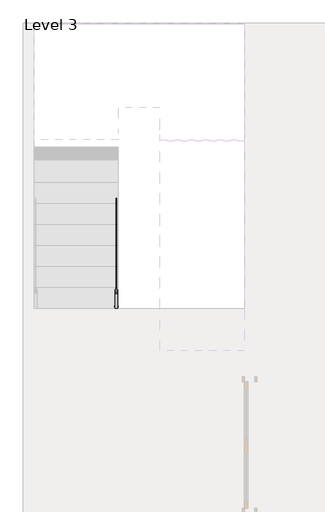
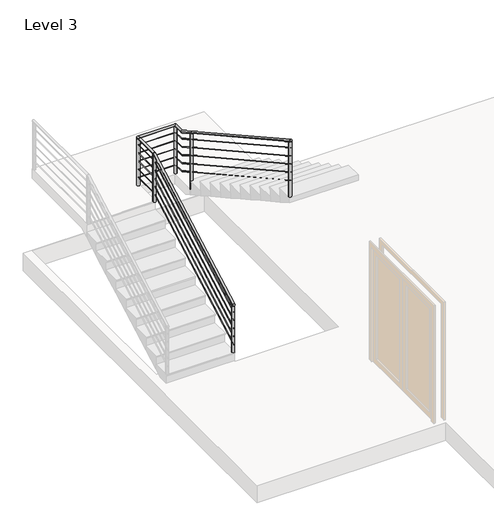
# One storey, part 2 of 3: 1 railing.
"""IFC4 building model written with IfcOpenShell, lengths in millimetres."""

from ifc_helpers import new_model, si_unit, point, frame, frame_2d, origin, place, context, project, spatial, circle_curve, ellipse_curve, trimmed, segment, composite_curve, outline, extrude, element, save
from ifc_brep_helpers import plane_surface, cylinder_surface, advanced_brep

model = new_model("IFC4")

# Units and contexts
model_context = context("Model", 3, world=origin())
ifc_project = project(units=[si_unit("LENGTHUNIT", "METRE", prefix="MILLI")], contexts=[model_context])

# Site, building, storey
site = spatial("IfcSite", under=ifc_project)
building = spatial("IfcBuilding", under=site)
storey = spatial("IfcBuildingStorey", under=building, Name="Level 3", Elevation=6096.0)

# Railing
placement = place(None, origin())
element("IfcRailing", 1, ObjectType="Handrail -Wire", at=placement, inside=storey, context=model_context, shape_type="SolidModel", body=[
    advanced_brep(
    [(-20164.067382, 11483.2233604, 7157.9409162), (-20202.167382, 11483.2233604, 7157.9409162), (-20164.067382, 13926.5597113, 8515.35), (-20202.167382, 13926.5597113, 8515.35), (-20164.067382, 14397.8733604, 8515.35), (-20202.167382, 14435.9733604, 8515.35), (-19541.767382, 14397.8733604, 8515.35), (-19503.667382, 14435.9733604, 8515.35), (-19541.767382, 14221.4870096, 8515.35), (-19503.667382, 14221.4870096, 8515.35), (-19541.767382, 13912.3718626, 8687.0806372), (-19503.667382, 13912.3718626, 8687.0806372), (-19541.767382, 10873.6233604, 10375.2742495), (-19503.667382, 10873.6233604, 10375.2742495)],
    [
        (0, 1, ellipse_curve(frame((-20183.117382, 11483.2233604, 7157.9409162), z_axis=(0.0, -1.0, 0.0), x_axis=(0.0, 0.0, -1.0)), 21.7924171, 19.05)),
        (1, 0, ellipse_curve(frame((-20183.117382, 11483.2233604, 7157.9409162), z_axis=(0.0, -1.0, 0.0), x_axis=(0.0, 0.0, -1.0)), 21.7924171, 19.05)),
        (0, 2),
        (2, 3, ellipse_curve(frame((-20183.117382, 13926.5597113, 8515.35), z_axis=(0.0, -0.9680282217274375, -0.2508413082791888), x_axis=(0.0, 0.25084130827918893, -0.9680282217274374)), 19.6791783, 19.05)),
        (3, 1),
        (3, 2, ellipse_curve(frame((-20183.117382, 13926.5597113, 8515.35), z_axis=(0.0, -0.9680282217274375, -0.2508413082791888), x_axis=(0.0, 0.25084130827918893, -0.9680282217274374)), 19.6791783, 19.05)),
        (2, 4),
        (4, 5, ellipse_curve(frame((-20183.117382, 14416.9233604, 8515.35), z_axis=(-0.7071067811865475, -0.7071067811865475, 0.0), x_axis=(0.7071067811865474, -0.7071067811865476, 0.0)), 26.9407684, 19.05)),
        (5, 3),
        (5, 4, ellipse_curve(frame((-20183.117382, 14416.9233604, 8515.35), z_axis=(-0.7071067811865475, -0.7071067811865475, 0.0), x_axis=(0.7071067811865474, -0.7071067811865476, 0.0)), 26.9407684, 19.05)),
        (4, 6),
        (6, 7, ellipse_curve(frame((-19522.717382, 14416.9233604, 8515.35), z_axis=(-0.7071067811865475, 0.7071067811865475, 0.0), x_axis=(-0.7071067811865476, -0.7071067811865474, 0.0)), 26.9407684, 19.05)),
        (7, 5),
        (7, 6, ellipse_curve(frame((-19522.717382, 14416.9233604, 8515.35), z_axis=(-0.7071067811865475, 0.7071067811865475, 0.0), x_axis=(-0.7071067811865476, -0.7071067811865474, 0.0)), 26.9407684, 19.05)),
        (6, 8),
        (8, 9, ellipse_curve(frame((-19522.717382, 14221.4870096, 8515.35), z_axis=(0.0, 0.9680282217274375, -0.25084130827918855), x_axis=(0.0, 0.25084130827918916, 0.9680282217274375)), 19.6791783, 19.05)),
        (9, 7),
        (9, 8, ellipse_curve(frame((-19522.717382, 14221.4870096, 8515.35), z_axis=(0.0, 0.9680282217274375, -0.25084130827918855), x_axis=(0.0, 0.25084130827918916, 0.9680282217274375)), 19.6791783, 19.05)),
        (8, 10),
        (10, 11, circle_curve(frame((-19522.717382, 13912.3718626, 8687.0806372), z_axis=(0.0, 0.8741572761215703, -0.4856429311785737), x_axis=(1.0, 0.0, 0.0)), 19.05)),
        (11, 9),
        (11, 10, circle_curve(frame((-19522.717382, 13912.3718626, 8687.0806372), z_axis=(0.0, 0.8741572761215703, -0.4856429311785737), x_axis=(1.0, 0.0, 0.0)), 19.05)),
        (12, 13, ellipse_curve(frame((-19522.717382, 10873.6233604, 10375.2742495), z_axis=(0.0, -1.0, 0.0), x_axis=(0.0, 0.0, -1.0)), 21.7924171, 19.05)),
        (13, 12, ellipse_curve(frame((-19522.717382, 10873.6233604, 10375.2742495), z_axis=(0.0, -1.0, 0.0), x_axis=(0.0, 0.0, -1.0)), 21.7924171, 19.05)),
        (10, 12),
        (13, 11),
    ],
    [
        plane_surface(frame((-20183.117382, 11483.2233604, 7179.7333333), z_axis=(0.0, -1.0, 0.0), x_axis=(0.0, 0.0, 1.0))),
        cylinder_surface(frame((-20183.117382, 11492.4748583, 7163.0806372), z_axis=(0.0, -0.87415727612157, -0.4856429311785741), x_axis=(-1.0, 0.0, 0.0)), 19.05),
        cylinder_surface(frame((-20183.117382, 13921.6233604, 8515.35), z_axis=(0.0, -1.0, 0.0), x_axis=(-1.0, 0.0, 0.0)), 19.05),
        cylinder_surface(frame((-20183.117382, 14416.9233604, 8515.35), z_axis=(-1.0, 0.0, 0.0), x_axis=(0.0, 1.0, 0.0)), 19.05),
        cylinder_surface(frame((-19522.717382, 14416.9233604, 8515.35), z_axis=(0.0, 1.0, 0.0), x_axis=(1.0, 0.0, 0.0)), 19.05),
        cylinder_surface(frame((-19522.717382, 14217.1718626, 8517.7473039), z_axis=(0.0, 0.8741572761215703, -0.4856429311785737), x_axis=(1.0, 0.0, 0.0)), 19.05),
        plane_surface(frame((-19522.717382, 10873.6233604, 10397.0666667), z_axis=(0.0, -1.0, 0.0), x_axis=(0.0, 0.0, -1.0))),
        cylinder_surface(frame((-19522.717382, 13912.3718626, 8687.0806372), z_axis=(0.0, 0.8741572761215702, -0.4856429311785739), x_axis=(1.0, 0.0, 0.0)), 19.05),
    ],
    [
        (0, [[1, 2]]),
        (1, [[-1, 3, 4, 5]]),
        (1, [[-2, -5, 6, -3]]),
        (2, [[-4, 7, 8, 9]]),
        (2, [[-6, -9, 10, -7]]),
        (3, [[-8, 11, 12, 13]]),
        (3, [[-10, -13, 14, -11]]),
        (4, [[-12, 15, 16, 17]]),
        (4, [[-14, -17, 18, -15]]),
        (5, [[-16, 19, 20, 21]]),
        (5, [[-18, -21, 22, -19]]),
        (6, [[23, 24]]),
        (7, [[-20, 25, -24, 26]]),
        (7, [[-22, -26, -23, -25]]),
    ],
),
    advanced_brep(
    [(-20186.292382, 11483.2233604, 7023.7012638), (-20179.942382, 11483.2233604, 7023.7012638), (-20186.292382, 13921.6233604, 8378.3679305), (-20179.942382, 13921.6233604, 8378.3679305)],
    [
        (0, 1, ellipse_curve(frame((-20183.117382, 11483.2233604, 7023.7012638), z_axis=(0.0, -1.0, 0.0), x_axis=(0.0, 0.0, -1.0)), 3.6320695, 3.175)),
        (1, 0, ellipse_curve(frame((-20183.117382, 11483.2233604, 7023.7012638), z_axis=(0.0, -1.0, 0.0), x_axis=(0.0, 0.0, -1.0)), 3.6320695, 3.175)),
        (2, 3, ellipse_curve(frame((-20183.117382, 13921.6233604, 8378.3679305), z_axis=(0.0, 1.0, 0.0), x_axis=(0.0, 0.0, -1.0)), 3.6320695, 3.175)),
        (3, 2, ellipse_curve(frame((-20183.117382, 13921.6233604, 8378.3679305), z_axis=(0.0, 1.0, 0.0), x_axis=(0.0, 0.0, -1.0)), 3.6320695, 3.175)),
        (0, 2),
        (3, 1),
    ],
    [
        plane_surface(frame((-20183.117382, 11483.2233604, 7027.3333333), z_axis=(0.0, -1.0, 0.0), x_axis=(0.0, 0.0, 1.0))),
        plane_surface(frame((-20183.117382, 13921.6233604, 8382.0), z_axis=(0.0, 1.0, 0.0), x_axis=(0.0, 0.0, 1.0))),
        cylinder_surface(frame((-20183.117382, 11484.7652768, 7024.557884), z_axis=(0.0, -0.87415727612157, -0.4856429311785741), x_axis=(1.0, 0.0, 0.0)), 3.175),
    ],
    [
        (0, [[1, 2]]),
        (1, [[3, 4]]),
        (2, [[-1, 5, -4, 6]]),
        (2, [[-2, -6, -3, -5]]),
    ],
),
    advanced_brep(
    [(-20186.292382, 13921.6233604, 8378.825), (-20179.942382, 13921.6233604, 8378.825), (-20186.292382, 14413.7483604, 8378.825), (-20179.942382, 14413.7483604, 8378.825)],
    [
        (0, 1, circle_curve(frame((-20183.117382, 13921.6233604, 8378.825), z_axis=(0.0, -1.0, 0.0), x_axis=(1.0, 0.0, 0.0)), 3.175)),
        (1, 0, circle_curve(frame((-20183.117382, 13921.6233604, 8378.825), z_axis=(0.0, -1.0, 0.0), x_axis=(1.0, 0.0, 0.0)), 3.175)),
        (2, 3, circle_curve(frame((-20183.117382, 14413.7483604, 8378.825), z_axis=(0.0, 1.0, 0.0), x_axis=(1.0, 0.0, 0.0)), 3.175)),
        (3, 2, circle_curve(frame((-20183.117382, 14413.7483604, 8378.825), z_axis=(0.0, 1.0, 0.0), x_axis=(1.0, 0.0, 0.0)), 3.175)),
        (0, 2),
        (3, 1),
    ],
    [
        plane_surface(frame((-20183.117382, 13921.6233604, 8382.0), z_axis=(0.0, -1.0, 0.0), x_axis=(0.0, 0.0, 1.0))),
        plane_surface(frame((-20183.117382, 14413.7483604, 8382.0), z_axis=(0.0, 1.0, 0.0), x_axis=(0.0, 0.0, 1.0))),
        cylinder_surface(frame((-20183.117382, 13921.6233604, 8378.825), z_axis=(0.0, -1.0, 0.0), x_axis=(1.0, 0.0, 0.0)), 3.175),
    ],
    [
        (0, [[1, 2]]),
        (1, [[3, 4]]),
        (2, [[-1, 5, -4, 6]]),
        (2, [[-2, -6, -3, -5]]),
    ],
),
    advanced_brep(
    [(-20186.292382, 14420.0983604, 8378.825), (-20186.292382, 14413.7483604, 8378.825), (-19525.892382, 14420.0983604, 8378.825), (-19525.892382, 14413.7483604, 8378.825)],
    [
        (0, 1, circle_curve(frame((-20186.292382, 14416.9233604, 8378.825), z_axis=(-1.0, 0.0, 0.0), x_axis=(0.0, -1.0, 0.0)), 3.175)),
        (1, 0, circle_curve(frame((-20186.292382, 14416.9233604, 8378.825), z_axis=(-1.0, 0.0, 0.0), x_axis=(0.0, -1.0, 0.0)), 3.175)),
        (2, 3, circle_curve(frame((-19525.892382, 14416.9233604, 8378.825), z_axis=(1.0, 0.0, 0.0), x_axis=(0.0, -1.0, 0.0)), 3.175)),
        (3, 2, circle_curve(frame((-19525.892382, 14416.9233604, 8378.825), z_axis=(1.0, 0.0, 0.0), x_axis=(0.0, -1.0, 0.0)), 3.175)),
        (0, 2),
        (3, 1),
    ],
    [
        plane_surface(frame((-20186.292382, 14416.9233604, 8382.0), z_axis=(-1.0, 0.0, 0.0), x_axis=(0.0, 1.0, 0.0))),
        plane_surface(frame((-19525.892382, 14416.9233604, 8382.0), z_axis=(1.0, 0.0, 0.0), x_axis=(0.0, 1.0, 0.0))),
        cylinder_surface(frame((-20186.292382, 14416.9233604, 8378.825), z_axis=(-1.0, 0.0, 0.0), x_axis=(0.0, -1.0, 0.0)), 3.175),
    ],
    [
        (0, [[1, 2]]),
        (1, [[3, 4]]),
        (2, [[-1, 5, -4, 6]]),
        (2, [[-2, -6, -3, -5]]),
    ],
),
    advanced_brep(
    [(-19519.542382, 14420.0983604, 8378.825), (-19525.892382, 14420.0983604, 8378.825), (-19519.542382, 14225.6006353, 8378.825), (-19525.892382, 14225.6006353, 8378.825), (-19519.542382, 13921.6233604, 8547.7012638), (-19525.892382, 13921.6233604, 8547.7012638)],
    [
        (0, 1, circle_curve(frame((-19522.717382, 14420.0983604, 8378.825), z_axis=(0.0, 1.0, 0.0), x_axis=(-1.0, 0.0, 0.0)), 3.175)),
        (1, 0, circle_curve(frame((-19522.717382, 14420.0983604, 8378.825), z_axis=(0.0, 1.0, 0.0), x_axis=(-1.0, 0.0, 0.0)), 3.175)),
        (0, 2),
        (2, 3, ellipse_curve(frame((-19522.717382, 14225.6006353, 8378.825), z_axis=(0.0, 0.9680282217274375, -0.2508413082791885), x_axis=(0.0, 0.25084130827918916, 0.9680282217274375)), 3.2798631, 3.175)),
        (3, 1),
        (3, 2, ellipse_curve(frame((-19522.717382, 14225.6006353, 8378.825), z_axis=(0.0, 0.9680282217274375, -0.2508413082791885), x_axis=(0.0, 0.25084130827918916, 0.9680282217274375)), 3.2798631, 3.175)),
        (4, 5, ellipse_curve(frame((-19522.717382, 13921.6233604, 8547.7012638), z_axis=(0.0, -1.0, 0.0), x_axis=(0.0, 0.0, -1.0)), 3.6320695, 3.175)),
        (5, 4, ellipse_curve(frame((-19522.717382, 13921.6233604, 8547.7012638), z_axis=(0.0, -1.0, 0.0), x_axis=(0.0, 0.0, -1.0)), 3.6320695, 3.175)),
        (2, 4),
        (5, 3),
    ],
    [
        plane_surface(frame((-19522.717382, 14420.0983604, 8382.0), z_axis=(0.0, 1.0, 0.0), x_axis=(0.0, 0.0, -1.0))),
        cylinder_surface(frame((-19522.717382, 14420.0983604, 8378.825), z_axis=(0.0, 1.0, 0.0), x_axis=(-1.0, 0.0, 0.0)), 3.175),
        plane_surface(frame((-19522.717382, 13921.6233604, 8551.3333333), z_axis=(0.0, -1.0, 0.0), x_axis=(0.0, 0.0, -1.0))),
        cylinder_surface(frame((-19522.717382, 14224.8814441, 8379.2245506), z_axis=(0.0, 0.8741572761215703, -0.48564293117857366), x_axis=(-1.0, 0.0, 0.0)), 3.175),
    ],
    [
        (0, [[1, 2]]),
        (1, [[-1, 3, 4, 5]]),
        (1, [[-2, -5, 6, -3]]),
        (2, [[7, 8]]),
        (3, [[-4, 9, -8, 10]]),
        (3, [[-6, -10, -7, -9]]),
    ],
),
    advanced_brep(
    [(-19519.542382, 13921.6233604, 8547.7012638), (-19525.892382, 13921.6233604, 8547.7012638), (-19519.542382, 10873.6233604, 10241.0345971), (-19525.892382, 10873.6233604, 10241.0345971)],
    [
        (0, 1, ellipse_curve(frame((-19522.717382, 13921.6233604, 8547.7012638), z_axis=(0.0, 1.0, 0.0), x_axis=(0.0, 0.0, -1.0)), 3.6320695, 3.175)),
        (1, 0, ellipse_curve(frame((-19522.717382, 13921.6233604, 8547.7012638), z_axis=(0.0, 1.0, 0.0), x_axis=(0.0, 0.0, -1.0)), 3.6320695, 3.175)),
        (2, 3, ellipse_curve(frame((-19522.717382, 10873.6233604, 10241.0345971), z_axis=(0.0, -1.0, 0.0), x_axis=(0.0, 0.0, -1.0)), 3.6320695, 3.175)),
        (3, 2, ellipse_curve(frame((-19522.717382, 10873.6233604, 10241.0345971), z_axis=(0.0, -1.0, 0.0), x_axis=(0.0, 0.0, -1.0)), 3.6320695, 3.175)),
        (0, 2),
        (3, 1),
    ],
    [
        plane_surface(frame((-19522.717382, 13921.6233604, 8551.3333333), z_axis=(0.0, 1.0, 0.0), x_axis=(0.0, 0.0, -1.0))),
        plane_surface(frame((-19522.717382, 10873.6233604, 10244.6666667), z_axis=(0.0, -1.0, 0.0), x_axis=(0.0, 0.0, -1.0))),
        cylinder_surface(frame((-19522.717382, 13920.0814441, 8548.557884), z_axis=(0.0, 0.8741572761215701, -0.4856429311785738), x_axis=(-1.0, 0.0, 0.0)), 3.175),
    ],
    [
        (0, [[1, 2]]),
        (1, [[3, 4]]),
        (2, [[-1, 5, -4, 6]]),
        (2, [[-2, -6, -3, -5]]),
    ],
),
    advanced_brep(
    [(-20186.292382, 11483.2233604, 6871.3012638), (-20179.942382, 11483.2233604, 6871.3012638), (-20186.292382, 13921.6233604, 8225.9679305), (-20179.942382, 13921.6233604, 8225.9679305)],
    [
        (0, 1, ellipse_curve(frame((-20183.117382, 11483.2233604, 6871.3012638), z_axis=(0.0, -1.0, 0.0), x_axis=(0.0, 0.0, -1.0)), 3.6320695, 3.175)),
        (1, 0, ellipse_curve(frame((-20183.117382, 11483.2233604, 6871.3012638), z_axis=(0.0, -1.0, 0.0), x_axis=(0.0, 0.0, -1.0)), 3.6320695, 3.175)),
        (2, 3, ellipse_curve(frame((-20183.117382, 13921.6233604, 8225.9679305), z_axis=(0.0, 1.0, 0.0), x_axis=(0.0, 0.0, -1.0)), 3.6320695, 3.175)),
        (3, 2, ellipse_curve(frame((-20183.117382, 13921.6233604, 8225.9679305), z_axis=(0.0, 1.0, 0.0), x_axis=(0.0, 0.0, -1.0)), 3.6320695, 3.175)),
        (0, 2),
        (3, 1),
    ],
    [
        plane_surface(frame((-20183.117382, 11483.2233604, 6874.9333333), z_axis=(0.0, -1.0, 0.0), x_axis=(0.0, 0.0, 1.0))),
        plane_surface(frame((-20183.117382, 13921.6233604, 8229.6), z_axis=(0.0, 1.0, 0.0), x_axis=(0.0, 0.0, 1.0))),
        cylinder_surface(frame((-20183.117382, 11484.7652768, 6872.157884), z_axis=(0.0, -0.87415727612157, -0.4856429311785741), x_axis=(1.0, 0.0, 0.0)), 3.175),
    ],
    [
        (0, [[1, 2]]),
        (1, [[3, 4]]),
        (2, [[-1, 5, -4, 6]]),
        (2, [[-2, -6, -3, -5]]),
    ],
),
    advanced_brep(
    [(-20186.292382, 13921.6233604, 8226.425), (-20179.942382, 13921.6233604, 8226.425), (-20186.292382, 14413.7483604, 8226.425), (-20179.942382, 14413.7483604, 8226.425)],
    [
        (0, 1, circle_curve(frame((-20183.117382, 13921.6233604, 8226.425), z_axis=(0.0, -1.0, 0.0), x_axis=(1.0, 0.0, 0.0)), 3.175)),
        (1, 0, circle_curve(frame((-20183.117382, 13921.6233604, 8226.425), z_axis=(0.0, -1.0, 0.0), x_axis=(1.0, 0.0, 0.0)), 3.175)),
        (2, 3, circle_curve(frame((-20183.117382, 14413.7483604, 8226.425), z_axis=(0.0, 1.0, 0.0), x_axis=(1.0, 0.0, 0.0)), 3.175)),
        (3, 2, circle_curve(frame((-20183.117382, 14413.7483604, 8226.425), z_axis=(0.0, 1.0, 0.0), x_axis=(1.0, 0.0, 0.0)), 3.175)),
        (0, 2),
        (3, 1),
    ],
    [
        plane_surface(frame((-20183.117382, 13921.6233604, 8229.6), z_axis=(0.0, -1.0, 0.0), x_axis=(0.0, 0.0, 1.0))),
        plane_surface(frame((-20183.117382, 14413.7483604, 8229.6), z_axis=(0.0, 1.0, 0.0), x_axis=(0.0, 0.0, 1.0))),
        cylinder_surface(frame((-20183.117382, 13921.6233604, 8226.425), z_axis=(0.0, -1.0, 0.0), x_axis=(1.0, 0.0, 0.0)), 3.175),
    ],
    [
        (0, [[1, 2]]),
        (1, [[3, 4]]),
        (2, [[-1, 5, -4, 6]]),
        (2, [[-2, -6, -3, -5]]),
    ],
),
    advanced_brep(
    [(-20186.292382, 14420.0983604, 8226.425), (-20186.292382, 14413.7483604, 8226.425), (-19525.892382, 14420.0983604, 8226.425), (-19525.892382, 14413.7483604, 8226.425)],
    [
        (0, 1, circle_curve(frame((-20186.292382, 14416.9233604, 8226.425), z_axis=(-1.0, 0.0, 0.0), x_axis=(0.0, -1.0, 0.0)), 3.175)),
        (1, 0, circle_curve(frame((-20186.292382, 14416.9233604, 8226.425), z_axis=(-1.0, 0.0, 0.0), x_axis=(0.0, -1.0, 0.0)), 3.175)),
        (2, 3, circle_curve(frame((-19525.892382, 14416.9233604, 8226.425), z_axis=(1.0, 0.0, 0.0), x_axis=(0.0, -1.0, 0.0)), 3.175)),
        (3, 2, circle_curve(frame((-19525.892382, 14416.9233604, 8226.425), z_axis=(1.0, 0.0, 0.0), x_axis=(0.0, -1.0, 0.0)), 3.175)),
        (0, 2),
        (3, 1),
    ],
    [
        plane_surface(frame((-20186.292382, 14416.9233604, 8229.6), z_axis=(-1.0, 0.0, 0.0), x_axis=(0.0, 1.0, 0.0))),
        plane_surface(frame((-19525.892382, 14416.9233604, 8229.6), z_axis=(1.0, 0.0, 0.0), x_axis=(0.0, 1.0, 0.0))),
        cylinder_surface(frame((-20186.292382, 14416.9233604, 8226.425), z_axis=(-1.0, 0.0, 0.0), x_axis=(0.0, -1.0, 0.0)), 3.175),
    ],
    [
        (0, [[1, 2]]),
        (1, [[3, 4]]),
        (2, [[-1, 5, -4, 6]]),
        (2, [[-2, -6, -3, -5]]),
    ],
),
    advanced_brep(
    [(-19519.542382, 14420.0983604, 8226.425), (-19525.892382, 14420.0983604, 8226.425), (-19519.542382, 14225.6006353, 8226.425), (-19525.892382, 14225.6006353, 8226.425), (-19519.542382, 13921.6233604, 8395.3012638), (-19525.892382, 13921.6233604, 8395.3012638)],
    [
        (0, 1, circle_curve(frame((-19522.717382, 14420.0983604, 8226.425), z_axis=(0.0, 1.0, 0.0), x_axis=(-1.0, 0.0, 0.0)), 3.175)),
        (1, 0, circle_curve(frame((-19522.717382, 14420.0983604, 8226.425), z_axis=(0.0, 1.0, 0.0), x_axis=(-1.0, 0.0, 0.0)), 3.175)),
        (0, 2),
        (2, 3, ellipse_curve(frame((-19522.717382, 14225.6006353, 8226.425), z_axis=(0.0, 0.9680282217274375, -0.2508413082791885), x_axis=(0.0, 0.25084130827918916, 0.9680282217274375)), 3.2798631, 3.175)),
        (3, 1),
        (3, 2, ellipse_curve(frame((-19522.717382, 14225.6006353, 8226.425), z_axis=(0.0, 0.9680282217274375, -0.2508413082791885), x_axis=(0.0, 0.25084130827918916, 0.9680282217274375)), 3.2798631, 3.175)),
        (4, 5, ellipse_curve(frame((-19522.717382, 13921.6233604, 8395.3012638), z_axis=(0.0, -1.0, 0.0), x_axis=(0.0, 0.0, -1.0)), 3.6320695, 3.175)),
        (5, 4, ellipse_curve(frame((-19522.717382, 13921.6233604, 8395.3012638), z_axis=(0.0, -1.0, 0.0), x_axis=(0.0, 0.0, -1.0)), 3.6320695, 3.175)),
        (2, 4),
        (5, 3),
    ],
    [
        plane_surface(frame((-19522.717382, 14420.0983604, 8229.6), z_axis=(0.0, 1.0, 0.0), x_axis=(0.0, 0.0, -1.0))),
        cylinder_surface(frame((-19522.717382, 14420.0983604, 8226.425), z_axis=(0.0, 1.0, 0.0), x_axis=(-1.0, 0.0, 0.0)), 3.175),
        plane_surface(frame((-19522.717382, 13921.6233604, 8398.9333333), z_axis=(0.0, -1.0, 0.0), x_axis=(0.0, 0.0, -1.0))),
        cylinder_surface(frame((-19522.717382, 14224.8814441, 8226.8245506), z_axis=(0.0, 0.8741572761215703, -0.48564293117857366), x_axis=(-1.0, 0.0, 0.0)), 3.175),
    ],
    [
        (0, [[1, 2]]),
        (1, [[-1, 3, 4, 5]]),
        (1, [[-2, -5, 6, -3]]),
        (2, [[7, 8]]),
        (3, [[-4, 9, -8, 10]]),
        (3, [[-6, -10, -7, -9]]),
    ],
),
    advanced_brep(
    [(-19519.542382, 13921.6233604, 8395.3012638), (-19525.892382, 13921.6233604, 8395.3012638), (-19519.542382, 10873.6233604, 10088.6345971), (-19525.892382, 10873.6233604, 10088.6345971)],
    [
        (0, 1, ellipse_curve(frame((-19522.717382, 13921.6233604, 8395.3012638), z_axis=(0.0, 1.0, 0.0), x_axis=(0.0, 0.0, -1.0)), 3.6320695, 3.175)),
        (1, 0, ellipse_curve(frame((-19522.717382, 13921.6233604, 8395.3012638), z_axis=(0.0, 1.0, 0.0), x_axis=(0.0, 0.0, -1.0)), 3.6320695, 3.175)),
        (2, 3, ellipse_curve(frame((-19522.717382, 10873.6233604, 10088.6345971), z_axis=(0.0, -1.0, 0.0), x_axis=(0.0, 0.0, -1.0)), 3.6320695, 3.175)),
        (3, 2, ellipse_curve(frame((-19522.717382, 10873.6233604, 10088.6345971), z_axis=(0.0, -1.0, 0.0), x_axis=(0.0, 0.0, -1.0)), 3.6320695, 3.175)),
        (0, 2),
        (3, 1),
    ],
    [
        plane_surface(frame((-19522.717382, 13921.6233604, 8398.9333333), z_axis=(0.0, 1.0, 0.0), x_axis=(0.0, 0.0, -1.0))),
        plane_surface(frame((-19522.717382, 10873.6233604, 10092.2666667), z_axis=(0.0, -1.0, 0.0), x_axis=(0.0, 0.0, -1.0))),
        cylinder_surface(frame((-19522.717382, 13920.0814441, 8396.157884), z_axis=(0.0, 0.8741572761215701, -0.4856429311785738), x_axis=(-1.0, 0.0, 0.0)), 3.175),
    ],
    [
        (0, [[1, 2]]),
        (1, [[3, 4]]),
        (2, [[-1, 5, -4, 6]]),
        (2, [[-2, -6, -3, -5]]),
    ],
),
    advanced_brep(
    [(-20186.292382, 11483.2233604, 6718.9012638), (-20179.942382, 11483.2233604, 6718.9012638), (-20186.292382, 13921.6233604, 8073.5679305), (-20179.942382, 13921.6233604, 8073.5679305)],
    [
        (0, 1, ellipse_curve(frame((-20183.117382, 11483.2233604, 6718.9012638), z_axis=(0.0, -1.0, 0.0), x_axis=(0.0, 0.0, -1.0)), 3.6320695, 3.175)),
        (1, 0, ellipse_curve(frame((-20183.117382, 11483.2233604, 6718.9012638), z_axis=(0.0, -1.0, 0.0), x_axis=(0.0, 0.0, -1.0)), 3.6320695, 3.175)),
        (2, 3, ellipse_curve(frame((-20183.117382, 13921.6233604, 8073.5679305), z_axis=(0.0, 1.0, 0.0), x_axis=(0.0, 0.0, -1.0)), 3.6320695, 3.175)),
        (3, 2, ellipse_curve(frame((-20183.117382, 13921.6233604, 8073.5679305), z_axis=(0.0, 1.0, 0.0), x_axis=(0.0, 0.0, -1.0)), 3.6320695, 3.175)),
        (0, 2),
        (3, 1),
    ],
    [
        plane_surface(frame((-20183.117382, 11483.2233604, 6722.5333333), z_axis=(0.0, -1.0, 0.0), x_axis=(0.0, 0.0, 1.0))),
        plane_surface(frame((-20183.117382, 13921.6233604, 8077.2), z_axis=(0.0, 1.0, 0.0), x_axis=(0.0, 0.0, 1.0))),
        cylinder_surface(frame((-20183.117382, 11484.7652768, 6719.757884), z_axis=(0.0, -0.87415727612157, -0.4856429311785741), x_axis=(1.0, 0.0, 0.0)), 3.175),
    ],
    [
        (0, [[1, 2]]),
        (1, [[3, 4]]),
        (2, [[-1, 5, -4, 6]]),
        (2, [[-2, -6, -3, -5]]),
    ],
),
    advanced_brep(
    [(-20186.292382, 13921.6233604, 8074.025), (-20179.942382, 13921.6233604, 8074.025), (-20186.292382, 14413.7483604, 8074.025), (-20179.942382, 14413.7483604, 8074.025)],
    [
        (0, 1, circle_curve(frame((-20183.117382, 13921.6233604, 8074.025), z_axis=(0.0, -1.0, 0.0), x_axis=(1.0, 0.0, 0.0)), 3.175)),
        (1, 0, circle_curve(frame((-20183.117382, 13921.6233604, 8074.025), z_axis=(0.0, -1.0, 0.0), x_axis=(1.0, 0.0, 0.0)), 3.175)),
        (2, 3, circle_curve(frame((-20183.117382, 14413.7483604, 8074.025), z_axis=(0.0, 1.0, 0.0), x_axis=(1.0, 0.0, 0.0)), 3.175)),
        (3, 2, circle_curve(frame((-20183.117382, 14413.7483604, 8074.025), z_axis=(0.0, 1.0, 0.0), x_axis=(1.0, 0.0, 0.0)), 3.175)),
        (0, 2),
        (3, 1),
    ],
    [
        plane_surface(frame((-20183.117382, 13921.6233604, 8077.2), z_axis=(0.0, -1.0, 0.0), x_axis=(0.0, 0.0, 1.0))),
        plane_surface(frame((-20183.117382, 14413.7483604, 8077.2), z_axis=(0.0, 1.0, 0.0), x_axis=(0.0, 0.0, 1.0))),
        cylinder_surface(frame((-20183.117382, 13921.6233604, 8074.025), z_axis=(0.0, -1.0, 0.0), x_axis=(1.0, 0.0, 0.0)), 3.175),
    ],
    [
        (0, [[1, 2]]),
        (1, [[3, 4]]),
        (2, [[-1, 5, -4, 6]]),
        (2, [[-2, -6, -3, -5]]),
    ],
),
    advanced_brep(
    [(-20186.292382, 14420.0983604, 8074.025), (-20186.292382, 14413.7483604, 8074.025), (-19525.892382, 14420.0983604, 8074.025), (-19525.892382, 14413.7483604, 8074.025)],
    [
        (0, 1, circle_curve(frame((-20186.292382, 14416.9233604, 8074.025), z_axis=(-1.0, 0.0, 0.0), x_axis=(0.0, -1.0, 0.0)), 3.175)),
        (1, 0, circle_curve(frame((-20186.292382, 14416.9233604, 8074.025), z_axis=(-1.0, 0.0, 0.0), x_axis=(0.0, -1.0, 0.0)), 3.175)),
        (2, 3, circle_curve(frame((-19525.892382, 14416.9233604, 8074.025), z_axis=(1.0, 0.0, 0.0), x_axis=(0.0, -1.0, 0.0)), 3.175)),
        (3, 2, circle_curve(frame((-19525.892382, 14416.9233604, 8074.025), z_axis=(1.0, 0.0, 0.0), x_axis=(0.0, -1.0, 0.0)), 3.175)),
        (0, 2),
        (3, 1),
    ],
    [
        plane_surface(frame((-20186.292382, 14416.9233604, 8077.2), z_axis=(-1.0, 0.0, 0.0), x_axis=(0.0, 1.0, 0.0))),
        plane_surface(frame((-19525.892382, 14416.9233604, 8077.2), z_axis=(1.0, 0.0, 0.0), x_axis=(0.0, 1.0, 0.0))),
        cylinder_surface(frame((-20186.292382, 14416.9233604, 8074.025), z_axis=(-1.0, 0.0, 0.0), x_axis=(0.0, -1.0, 0.0)), 3.175),
    ],
    [
        (0, [[1, 2]]),
        (1, [[3, 4]]),
        (2, [[-1, 5, -4, 6]]),
        (2, [[-2, -6, -3, -5]]),
    ],
),
    advanced_brep(
    [(-19519.542382, 14420.0983604, 8074.025), (-19525.892382, 14420.0983604, 8074.025), (-19519.542382, 14225.6006353, 8074.025), (-19525.892382, 14225.6006353, 8074.025), (-19519.542382, 13921.6233604, 8242.9012638), (-19525.892382, 13921.6233604, 8242.9012638)],
    [
        (0, 1, circle_curve(frame((-19522.717382, 14420.0983604, 8074.025), z_axis=(0.0, 1.0, 0.0), x_axis=(-1.0, 0.0, 0.0)), 3.175)),
        (1, 0, circle_curve(frame((-19522.717382, 14420.0983604, 8074.025), z_axis=(0.0, 1.0, 0.0), x_axis=(-1.0, 0.0, 0.0)), 3.175)),
        (0, 2),
        (2, 3, ellipse_curve(frame((-19522.717382, 14225.6006353, 8074.025), z_axis=(0.0, 0.9680282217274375, -0.2508413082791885), x_axis=(0.0, 0.25084130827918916, 0.9680282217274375)), 3.2798631, 3.175)),
        (3, 1),
        (3, 2, ellipse_curve(frame((-19522.717382, 14225.6006353, 8074.025), z_axis=(0.0, 0.9680282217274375, -0.2508413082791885), x_axis=(0.0, 0.25084130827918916, 0.9680282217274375)), 3.2798631, 3.175)),
        (4, 5, ellipse_curve(frame((-19522.717382, 13921.6233604, 8242.9012638), z_axis=(0.0, -1.0, 0.0), x_axis=(0.0, 0.0, -1.0)), 3.6320695, 3.175)),
        (5, 4, ellipse_curve(frame((-19522.717382, 13921.6233604, 8242.9012638), z_axis=(0.0, -1.0, 0.0), x_axis=(0.0, 0.0, -1.0)), 3.6320695, 3.175)),
        (2, 4),
        (5, 3),
    ],
    [
        plane_surface(frame((-19522.717382, 14420.0983604, 8077.2), z_axis=(0.0, 1.0, 0.0), x_axis=(0.0, 0.0, -1.0))),
        cylinder_surface(frame((-19522.717382, 14420.0983604, 8074.025), z_axis=(0.0, 1.0, 0.0), x_axis=(-1.0, 0.0, 0.0)), 3.175),
        plane_surface(frame((-19522.717382, 13921.6233604, 8246.5333333), z_axis=(0.0, -1.0, 0.0), x_axis=(0.0, 0.0, -1.0))),
        cylinder_surface(frame((-19522.717382, 14224.8814441, 8074.4245506), z_axis=(0.0, 0.8741572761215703, -0.48564293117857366), x_axis=(-1.0, 0.0, 0.0)), 3.175),
    ],
    [
        (0, [[1, 2]]),
        (1, [[-1, 3, 4, 5]]),
        (1, [[-2, -5, 6, -3]]),
        (2, [[7, 8]]),
        (3, [[-4, 9, -8, 10]]),
        (3, [[-6, -10, -7, -9]]),
    ],
),
    advanced_brep(
    [(-19519.542382, 13921.6233604, 8242.9012638), (-19525.892382, 13921.6233604, 8242.9012638), (-19519.542382, 10873.6233604, 9936.2345971), (-19525.892382, 10873.6233604, 9936.2345971)],
    [
        (0, 1, ellipse_curve(frame((-19522.717382, 13921.6233604, 8242.9012638), z_axis=(0.0, 1.0, 0.0), x_axis=(0.0, 0.0, -1.0)), 3.6320695, 3.175)),
        (1, 0, ellipse_curve(frame((-19522.717382, 13921.6233604, 8242.9012638), z_axis=(0.0, 1.0, 0.0), x_axis=(0.0, 0.0, -1.0)), 3.6320695, 3.175)),
        (2, 3, ellipse_curve(frame((-19522.717382, 10873.6233604, 9936.2345971), z_axis=(0.0, -1.0, 0.0), x_axis=(0.0, 0.0, -1.0)), 3.6320695, 3.175)),
        (3, 2, ellipse_curve(frame((-19522.717382, 10873.6233604, 9936.2345971), z_axis=(0.0, -1.0, 0.0), x_axis=(0.0, 0.0, -1.0)), 3.6320695, 3.175)),
        (0, 2),
        (3, 1),
    ],
    [
        plane_surface(frame((-19522.717382, 13921.6233604, 8246.5333333), z_axis=(0.0, 1.0, 0.0), x_axis=(0.0, 0.0, -1.0))),
        plane_surface(frame((-19522.717382, 10873.6233604, 9939.8666667), z_axis=(0.0, -1.0, 0.0), x_axis=(0.0, 0.0, -1.0))),
        cylinder_surface(frame((-19522.717382, 13920.0814441, 8243.757884), z_axis=(0.0, 0.8741572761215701, -0.4856429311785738), x_axis=(-1.0, 0.0, 0.0)), 3.175),
    ],
    [
        (0, [[1, 2]]),
        (1, [[3, 4]]),
        (2, [[-1, 5, -4, 6]]),
        (2, [[-2, -6, -3, -5]]),
    ],
),
    advanced_brep(
    [(-20186.292382, 11483.2233604, 6566.5012638), (-20179.942382, 11483.2233604, 6566.5012638), (-20186.292382, 13921.6233604, 7921.1679305), (-20179.942382, 13921.6233604, 7921.1679305)],
    [
        (0, 1, ellipse_curve(frame((-20183.117382, 11483.2233604, 6566.5012638), z_axis=(0.0, -1.0, 0.0), x_axis=(0.0, 0.0, -1.0)), 3.6320695, 3.175)),
        (1, 0, ellipse_curve(frame((-20183.117382, 11483.2233604, 6566.5012638), z_axis=(0.0, -1.0, 0.0), x_axis=(0.0, 0.0, -1.0)), 3.6320695, 3.175)),
        (2, 3, ellipse_curve(frame((-20183.117382, 13921.6233604, 7921.1679305), z_axis=(0.0, 1.0, 0.0), x_axis=(0.0, 0.0, -1.0)), 3.6320695, 3.175)),
        (3, 2, ellipse_curve(frame((-20183.117382, 13921.6233604, 7921.1679305), z_axis=(0.0, 1.0, 0.0), x_axis=(0.0, 0.0, -1.0)), 3.6320695, 3.175)),
        (0, 2),
        (3, 1),
    ],
    [
        plane_surface(frame((-20183.117382, 11483.2233604, 6570.1333333), z_axis=(0.0, -1.0, 0.0), x_axis=(0.0, 0.0, 1.0))),
        plane_surface(frame((-20183.117382, 13921.6233604, 7924.8), z_axis=(0.0, 1.0, 0.0), x_axis=(0.0, 0.0, 1.0))),
        cylinder_surface(frame((-20183.117382, 11484.7652768, 6567.357884), z_axis=(0.0, -0.87415727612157, -0.4856429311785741), x_axis=(1.0, 0.0, 0.0)), 3.175),
    ],
    [
        (0, [[1, 2]]),
        (1, [[3, 4]]),
        (2, [[-1, 5, -4, 6]]),
        (2, [[-2, -6, -3, -5]]),
    ],
),
    advanced_brep(
    [(-20186.292382, 13921.6233604, 7921.625), (-20179.942382, 13921.6233604, 7921.625), (-20186.292382, 14413.7483604, 7921.625), (-20179.942382, 14413.7483604, 7921.625)],
    [
        (0, 1, circle_curve(frame((-20183.117382, 13921.6233604, 7921.625), z_axis=(0.0, -1.0, 0.0), x_axis=(1.0, 0.0, 0.0)), 3.175)),
        (1, 0, circle_curve(frame((-20183.117382, 13921.6233604, 7921.625), z_axis=(0.0, -1.0, 0.0), x_axis=(1.0, 0.0, 0.0)), 3.175)),
        (2, 3, circle_curve(frame((-20183.117382, 14413.7483604, 7921.625), z_axis=(0.0, 1.0, 0.0), x_axis=(1.0, 0.0, 0.0)), 3.175)),
        (3, 2, circle_curve(frame((-20183.117382, 14413.7483604, 7921.625), z_axis=(0.0, 1.0, 0.0), x_axis=(1.0, 0.0, 0.0)), 3.175)),
        (0, 2),
        (3, 1),
    ],
    [
        plane_surface(frame((-20183.117382, 13921.6233604, 7924.8), z_axis=(0.0, -1.0, 0.0), x_axis=(0.0, 0.0, 1.0))),
        plane_surface(frame((-20183.117382, 14413.7483604, 7924.8), z_axis=(0.0, 1.0, 0.0), x_axis=(0.0, 0.0, 1.0))),
        cylinder_surface(frame((-20183.117382, 13921.6233604, 7921.625), z_axis=(0.0, -1.0, 0.0), x_axis=(1.0, 0.0, 0.0)), 3.175),
    ],
    [
        (0, [[1, 2]]),
        (1, [[3, 4]]),
        (2, [[-1, 5, -4, 6]]),
        (2, [[-2, -6, -3, -5]]),
    ],
),
    advanced_brep(
    [(-20186.292382, 14420.0983604, 7921.625), (-20186.292382, 14413.7483604, 7921.625), (-19525.892382, 14420.0983604, 7921.625), (-19525.892382, 14413.7483604, 7921.625)],
    [
        (0, 1, circle_curve(frame((-20186.292382, 14416.9233604, 7921.625), z_axis=(-1.0, 0.0, 0.0), x_axis=(0.0, -1.0, 0.0)), 3.175)),
        (1, 0, circle_curve(frame((-20186.292382, 14416.9233604, 7921.625), z_axis=(-1.0, 0.0, 0.0), x_axis=(0.0, -1.0, 0.0)), 3.175)),
        (2, 3, circle_curve(frame((-19525.892382, 14416.9233604, 7921.625), z_axis=(1.0, 0.0, 0.0), x_axis=(0.0, -1.0, 0.0)), 3.175)),
        (3, 2, circle_curve(frame((-19525.892382, 14416.9233604, 7921.625), z_axis=(1.0, 0.0, 0.0), x_axis=(0.0, -1.0, 0.0)), 3.175)),
        (0, 2),
        (3, 1),
    ],
    [
        plane_surface(frame((-20186.292382, 14416.9233604, 7924.8), z_axis=(-1.0, 0.0, 0.0), x_axis=(0.0, 1.0, 0.0))),
        plane_surface(frame((-19525.892382, 14416.9233604, 7924.8), z_axis=(1.0, 0.0, 0.0), x_axis=(0.0, 1.0, 0.0))),
        cylinder_surface(frame((-20186.292382, 14416.9233604, 7921.625), z_axis=(-1.0, 0.0, 0.0), x_axis=(0.0, -1.0, 0.0)), 3.175),
    ],
    [
        (0, [[1, 2]]),
        (1, [[3, 4]]),
        (2, [[-1, 5, -4, 6]]),
        (2, [[-2, -6, -3, -5]]),
    ],
),
    advanced_brep(
    [(-19519.542382, 14420.0983604, 7921.625), (-19525.892382, 14420.0983604, 7921.625), (-19519.542382, 14225.6006353, 7921.625), (-19525.892382, 14225.6006353, 7921.625), (-19519.542382, 13921.6233604, 8090.5012638), (-19525.892382, 13921.6233604, 8090.5012638)],
    [
        (0, 1, circle_curve(frame((-19522.717382, 14420.0983604, 7921.625), z_axis=(0.0, 1.0, 0.0), x_axis=(-1.0, 0.0, 0.0)), 3.175)),
        (1, 0, circle_curve(frame((-19522.717382, 14420.0983604, 7921.625), z_axis=(0.0, 1.0, 0.0), x_axis=(-1.0, 0.0, 0.0)), 3.175)),
        (0, 2),
        (2, 3, ellipse_curve(frame((-19522.717382, 14225.6006353, 7921.625), z_axis=(0.0, 0.9680282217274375, -0.2508413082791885), x_axis=(0.0, 0.25084130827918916, 0.9680282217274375)), 3.2798631, 3.175)),
        (3, 1),
        (3, 2, ellipse_curve(frame((-19522.717382, 14225.6006353, 7921.625), z_axis=(0.0, 0.9680282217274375, -0.2508413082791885), x_axis=(0.0, 0.25084130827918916, 0.9680282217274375)), 3.2798631, 3.175)),
        (4, 5, ellipse_curve(frame((-19522.717382, 13921.6233604, 8090.5012638), z_axis=(0.0, -1.0, 0.0), x_axis=(0.0, 0.0, -1.0)), 3.6320695, 3.175)),
        (5, 4, ellipse_curve(frame((-19522.717382, 13921.6233604, 8090.5012638), z_axis=(0.0, -1.0, 0.0), x_axis=(0.0, 0.0, -1.0)), 3.6320695, 3.175)),
        (2, 4),
        (5, 3),
    ],
    [
        plane_surface(frame((-19522.717382, 14420.0983604, 7924.8), z_axis=(0.0, 1.0, 0.0), x_axis=(0.0, 0.0, -1.0))),
        cylinder_surface(frame((-19522.717382, 14420.0983604, 7921.625), z_axis=(0.0, 1.0, 0.0), x_axis=(-1.0, 0.0, 0.0)), 3.175),
        plane_surface(frame((-19522.717382, 13921.6233604, 8094.1333333), z_axis=(0.0, -1.0, 0.0), x_axis=(0.0, 0.0, -1.0))),
        cylinder_surface(frame((-19522.717382, 14224.8814441, 7922.0245506), z_axis=(0.0, 0.8741572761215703, -0.48564293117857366), x_axis=(-1.0, 0.0, 0.0)), 3.175),
    ],
    [
        (0, [[1, 2]]),
        (1, [[-1, 3, 4, 5]]),
        (1, [[-2, -5, 6, -3]]),
        (2, [[7, 8]]),
        (3, [[-4, 9, -8, 10]]),
        (3, [[-6, -10, -7, -9]]),
    ],
),
    advanced_brep(
    [(-19519.542382, 13921.6233604, 8090.5012638), (-19525.892382, 13921.6233604, 8090.5012638), (-19519.542382, 10873.6233604, 9783.8345971), (-19525.892382, 10873.6233604, 9783.8345971)],
    [
        (0, 1, ellipse_curve(frame((-19522.717382, 13921.6233604, 8090.5012638), z_axis=(0.0, 1.0, 0.0), x_axis=(0.0, 0.0, -1.0)), 3.6320695, 3.175)),
        (1, 0, ellipse_curve(frame((-19522.717382, 13921.6233604, 8090.5012638), z_axis=(0.0, 1.0, 0.0), x_axis=(0.0, 0.0, -1.0)), 3.6320695, 3.175)),
        (2, 3, ellipse_curve(frame((-19522.717382, 10873.6233604, 9783.8345971), z_axis=(0.0, -1.0, 0.0), x_axis=(0.0, 0.0, -1.0)), 3.6320695, 3.175)),
        (3, 2, ellipse_curve(frame((-19522.717382, 10873.6233604, 9783.8345971), z_axis=(0.0, -1.0, 0.0), x_axis=(0.0, 0.0, -1.0)), 3.6320695, 3.175)),
        (0, 2),
        (3, 1),
    ],
    [
        plane_surface(frame((-19522.717382, 13921.6233604, 8094.1333333), z_axis=(0.0, 1.0, 0.0), x_axis=(0.0, 0.0, -1.0))),
        plane_surface(frame((-19522.717382, 10873.6233604, 9787.4666667), z_axis=(0.0, -1.0, 0.0), x_axis=(0.0, 0.0, -1.0))),
        cylinder_surface(frame((-19522.717382, 13920.0814441, 8091.357884), z_axis=(0.0, 0.8741572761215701, -0.4856429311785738), x_axis=(-1.0, 0.0, 0.0)), 3.175),
    ],
    [
        (0, [[1, 2]]),
        (1, [[3, 4]]),
        (2, [[-1, 5, -4, 6]]),
        (2, [[-2, -6, -3, -5]]),
    ],
),
    advanced_brep(
    [(-20186.292382, 11483.2233604, 6414.1012638), (-20179.942382, 11483.2233604, 6414.1012638), (-20186.292382, 13921.6233604, 7768.7679305), (-20179.942382, 13921.6233604, 7768.7679305)],
    [
        (0, 1, ellipse_curve(frame((-20183.117382, 11483.2233604, 6414.1012638), z_axis=(0.0, -1.0, 0.0), x_axis=(0.0, 0.0, -1.0)), 3.6320695, 3.175)),
        (1, 0, ellipse_curve(frame((-20183.117382, 11483.2233604, 6414.1012638), z_axis=(0.0, -1.0, 0.0), x_axis=(0.0, 0.0, -1.0)), 3.6320695, 3.175)),
        (2, 3, ellipse_curve(frame((-20183.117382, 13921.6233604, 7768.7679305), z_axis=(0.0, 1.0, 0.0), x_axis=(0.0, 0.0, -1.0)), 3.6320695, 3.175)),
        (3, 2, ellipse_curve(frame((-20183.117382, 13921.6233604, 7768.7679305), z_axis=(0.0, 1.0, 0.0), x_axis=(0.0, 0.0, -1.0)), 3.6320695, 3.175)),
        (0, 2),
        (3, 1),
    ],
    [
        plane_surface(frame((-20183.117382, 11483.2233604, 6417.7333333), z_axis=(0.0, -1.0, 0.0), x_axis=(0.0, 0.0, 1.0))),
        plane_surface(frame((-20183.117382, 13921.6233604, 7772.4), z_axis=(0.0, 1.0, 0.0), x_axis=(0.0, 0.0, 1.0))),
        cylinder_surface(frame((-20183.117382, 11484.7652768, 6414.957884), z_axis=(0.0, -0.87415727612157, -0.4856429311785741), x_axis=(1.0, 0.0, 0.0)), 3.175),
    ],
    [
        (0, [[1, 2]]),
        (1, [[3, 4]]),
        (2, [[-1, 5, -4, 6]]),
        (2, [[-2, -6, -3, -5]]),
    ],
),
    advanced_brep(
    [(-20186.292382, 13921.6233604, 7769.225), (-20179.942382, 13921.6233604, 7769.225), (-20186.292382, 14413.7483604, 7769.225), (-20179.942382, 14413.7483604, 7769.225)],
    [
        (0, 1, circle_curve(frame((-20183.117382, 13921.6233604, 7769.225), z_axis=(0.0, -1.0, 0.0), x_axis=(1.0, 0.0, 0.0)), 3.175)),
        (1, 0, circle_curve(frame((-20183.117382, 13921.6233604, 7769.225), z_axis=(0.0, -1.0, 0.0), x_axis=(1.0, 0.0, 0.0)), 3.175)),
        (2, 3, circle_curve(frame((-20183.117382, 14413.7483604, 7769.225), z_axis=(0.0, 1.0, 0.0), x_axis=(1.0, 0.0, 0.0)), 3.175)),
        (3, 2, circle_curve(frame((-20183.117382, 14413.7483604, 7769.225), z_axis=(0.0, 1.0, 0.0), x_axis=(1.0, 0.0, 0.0)), 3.175)),
        (0, 2),
        (3, 1),
    ],
    [
        plane_surface(frame((-20183.117382, 13921.6233604, 7772.4), z_axis=(0.0, -1.0, 0.0), x_axis=(0.0, 0.0, 1.0))),
        plane_surface(frame((-20183.117382, 14413.7483604, 7772.4), z_axis=(0.0, 1.0, 0.0), x_axis=(0.0, 0.0, 1.0))),
        cylinder_surface(frame((-20183.117382, 13921.6233604, 7769.225), z_axis=(0.0, -1.0, 0.0), x_axis=(1.0, 0.0, 0.0)), 3.175),
    ],
    [
        (0, [[1, 2]]),
        (1, [[3, 4]]),
        (2, [[-1, 5, -4, 6]]),
        (2, [[-2, -6, -3, -5]]),
    ],
),
    advanced_brep(
    [(-20186.292382, 14420.0983604, 7769.225), (-20186.292382, 14413.7483604, 7769.225), (-19525.892382, 14420.0983604, 7769.225), (-19525.892382, 14413.7483604, 7769.225)],
    [
        (0, 1, circle_curve(frame((-20186.292382, 14416.9233604, 7769.225), z_axis=(-1.0, 0.0, 0.0), x_axis=(0.0, -1.0, 0.0)), 3.175)),
        (1, 0, circle_curve(frame((-20186.292382, 14416.9233604, 7769.225), z_axis=(-1.0, 0.0, 0.0), x_axis=(0.0, -1.0, 0.0)), 3.175)),
        (2, 3, circle_curve(frame((-19525.892382, 14416.9233604, 7769.225), z_axis=(1.0, 0.0, 0.0), x_axis=(0.0, -1.0, 0.0)), 3.175)),
        (3, 2, circle_curve(frame((-19525.892382, 14416.9233604, 7769.225), z_axis=(1.0, 0.0, 0.0), x_axis=(0.0, -1.0, 0.0)), 3.175)),
        (0, 2),
        (3, 1),
    ],
    [
        plane_surface(frame((-20186.292382, 14416.9233604, 7772.4), z_axis=(-1.0, 0.0, 0.0), x_axis=(0.0, 1.0, 0.0))),
        plane_surface(frame((-19525.892382, 14416.9233604, 7772.4), z_axis=(1.0, 0.0, 0.0), x_axis=(0.0, 1.0, 0.0))),
        cylinder_surface(frame((-20186.292382, 14416.9233604, 7769.225), z_axis=(-1.0, 0.0, 0.0), x_axis=(0.0, -1.0, 0.0)), 3.175),
    ],
    [
        (0, [[1, 2]]),
        (1, [[3, 4]]),
        (2, [[-1, 5, -4, 6]]),
        (2, [[-2, -6, -3, -5]]),
    ],
),
    advanced_brep(
    [(-19519.542382, 14420.0983604, 7769.225), (-19525.892382, 14420.0983604, 7769.225), (-19519.542382, 14225.6006353, 7769.225), (-19525.892382, 14225.6006353, 7769.225), (-19519.542382, 13921.6233604, 7938.1012638), (-19525.892382, 13921.6233604, 7938.1012638)],
    [
        (0, 1, circle_curve(frame((-19522.717382, 14420.0983604, 7769.225), z_axis=(0.0, 1.0, 0.0), x_axis=(-1.0, 0.0, 0.0)), 3.175)),
        (1, 0, circle_curve(frame((-19522.717382, 14420.0983604, 7769.225), z_axis=(0.0, 1.0, 0.0), x_axis=(-1.0, 0.0, 0.0)), 3.175)),
        (0, 2),
        (2, 3, ellipse_curve(frame((-19522.717382, 14225.6006353, 7769.225), z_axis=(0.0, 0.9680282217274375, -0.2508413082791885), x_axis=(0.0, 0.25084130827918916, 0.9680282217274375)), 3.2798631, 3.175)),
        (3, 1),
        (3, 2, ellipse_curve(frame((-19522.717382, 14225.6006353, 7769.225), z_axis=(0.0, 0.9680282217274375, -0.2508413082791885), x_axis=(0.0, 0.25084130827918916, 0.9680282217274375)), 3.2798631, 3.175)),
        (4, 5, ellipse_curve(frame((-19522.717382, 13921.6233604, 7938.1012638), z_axis=(0.0, -1.0, 0.0), x_axis=(0.0, 0.0, -1.0)), 3.6320695, 3.175)),
        (5, 4, ellipse_curve(frame((-19522.717382, 13921.6233604, 7938.1012638), z_axis=(0.0, -1.0, 0.0), x_axis=(0.0, 0.0, -1.0)), 3.6320695, 3.175)),
        (2, 4),
        (5, 3),
    ],
    [
        plane_surface(frame((-19522.717382, 14420.0983604, 7772.4), z_axis=(0.0, 1.0, 0.0), x_axis=(0.0, 0.0, -1.0))),
        cylinder_surface(frame((-19522.717382, 14420.0983604, 7769.225), z_axis=(0.0, 1.0, 0.0), x_axis=(-1.0, 0.0, 0.0)), 3.175),
        plane_surface(frame((-19522.717382, 13921.6233604, 7941.7333333), z_axis=(0.0, -1.0, 0.0), x_axis=(0.0, 0.0, -1.0))),
        cylinder_surface(frame((-19522.717382, 14224.8814441, 7769.6245506), z_axis=(0.0, 0.8741572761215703, -0.48564293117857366), x_axis=(-1.0, 0.0, 0.0)), 3.175),
    ],
    [
        (0, [[1, 2]]),
        (1, [[-1, 3, 4, 5]]),
        (1, [[-2, -5, 6, -3]]),
        (2, [[7, 8]]),
        (3, [[-4, 9, -8, 10]]),
        (3, [[-6, -10, -7, -9]]),
    ],
),
    advanced_brep(
    [(-19519.542382, 13921.6233604, 7938.1012638), (-19525.892382, 13921.6233604, 7938.1012638), (-19519.542382, 10873.6233604, 9631.4345971), (-19525.892382, 10873.6233604, 9631.4345971)],
    [
        (0, 1, ellipse_curve(frame((-19522.717382, 13921.6233604, 7938.1012638), z_axis=(0.0, 1.0, 0.0), x_axis=(0.0, 0.0, -1.0)), 3.6320695, 3.175)),
        (1, 0, ellipse_curve(frame((-19522.717382, 13921.6233604, 7938.1012638), z_axis=(0.0, 1.0, 0.0), x_axis=(0.0, 0.0, -1.0)), 3.6320695, 3.175)),
        (2, 3, ellipse_curve(frame((-19522.717382, 10873.6233604, 9631.4345971), z_axis=(0.0, -1.0, 0.0), x_axis=(0.0, 0.0, -1.0)), 3.6320695, 3.175)),
        (3, 2, ellipse_curve(frame((-19522.717382, 10873.6233604, 9631.4345971), z_axis=(0.0, -1.0, 0.0), x_axis=(0.0, 0.0, -1.0)), 3.6320695, 3.175)),
        (0, 2),
        (3, 1),
    ],
    [
        plane_surface(frame((-19522.717382, 13921.6233604, 7941.7333333), z_axis=(0.0, 1.0, 0.0), x_axis=(0.0, 0.0, -1.0))),
        plane_surface(frame((-19522.717382, 10873.6233604, 9635.0666667), z_axis=(0.0, -1.0, 0.0), x_axis=(0.0, 0.0, -1.0))),
        cylinder_surface(frame((-19522.717382, 13920.0814441, 7938.957884), z_axis=(0.0, 0.8741572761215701, -0.4856429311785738), x_axis=(-1.0, 0.0, 0.0)), 3.175),
    ],
    [
        (0, [[1, 2]]),
        (1, [[3, 4]]),
        (2, [[-1, 5, -4, 6]]),
        (2, [[-2, -6, -3, -5]]),
    ],
),
    advanced_brep(
    [(-19548.117382, 13921.6233604, 8660.1484991), (-19548.117382, 13921.6233604, 7620.0), (-19497.317382, 13921.6233604, 7620.0), (-19497.317382, 13921.6233604, 8660.1484991)],
    [
        (0, 1),
        (1, 2, circle_curve(frame((-19522.717382, 13921.6233604, 7620.0), z_axis=(0.0, 0.0, 1.0), x_axis=(1.0, 0.0, 0.0)), 25.4)),
        (2, 3),
        (3, 0, ellipse_curve(frame((-19522.717382, 13921.6233604, 8660.1484991), z_axis=(0.0, -0.48564293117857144, -0.8741572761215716), x_axis=(0.0, -0.8741572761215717, 0.4856429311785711)), 29.0565562, 25.4)),
        (0, 3, ellipse_curve(frame((-19522.717382, 13921.6233604, 8660.1484991), z_axis=(0.0, -0.48564293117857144, -0.8741572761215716), x_axis=(0.0, -0.8741572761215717, 0.4856429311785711)), 29.0565562, 25.4)),
        (2, 1, circle_curve(frame((-19522.717382, 13921.6233604, 7620.0), z_axis=(0.0, 0.0, 1.0), x_axis=(1.0, 0.0, 0.0)), 25.4)),
    ],
    [
        cylinder_surface(frame((-19522.717382, 13921.6233604, 7391.4), z_axis=(0.0, 0.0, 1.0), x_axis=(1.0, 0.0, 0.0)), 25.4),
        plane_surface(frame((-19471.917382, 13870.8233604, 8688.3707213), z_axis=(0.0, 0.48564293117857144, 0.8741572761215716), x_axis=(-1.0, 0.0, 0.0))),
        plane_surface(frame((-19471.917382, 13972.4233604, 7620.0), z_axis=(0.0, 0.0, -1.0), x_axis=(-1.0, 0.0, 0.0))),
    ],
    [
        (0, [[1, 2, 3, 4]]),
        (0, [[-1, 5, -3, 6]]),
        (1, [[-4, -5]]),
        (2, [[-2, -6]]),
    ],
),
    extrude(outline(composite_curve([segment(trimmed(circle_curve(frame_2d((-19522.717382, 14416.9233604)), 25.4), [point((-19522.717382, 14442.3233604))], [point((-19522.717382, 14391.5233604))], False, "CARTESIAN"), True, "CONTINUOUS"), segment(trimmed(circle_curve(frame_2d((-19522.717382, 14416.9233604)), 25.4), [point((-19522.717382, 14391.5233604))], [point((-19522.717382, 14442.3233604))], False, "CARTESIAN"), True, "CONTINUOUS")], self_intersect=False)), frame((0.0, 0.0, 7620.0), z_axis=(0.0, 0.0, 1.0), x_axis=(1.0, 0.0, 0.0)), (0.0, 0.0, 1.0), 876.3),
    extrude(outline(composite_curve([segment(trimmed(circle_curve(frame_2d((-20183.117382, 14416.9233604)), 25.4), [point((-20208.517382, 14416.9233604))], [point((-20157.717382, 14416.9233604))], False, "CARTESIAN"), True, "CONTINUOUS"), segment(trimmed(circle_curve(frame_2d((-20183.117382, 14416.9233604)), 25.4), [point((-20157.717382, 14416.9233604))], [point((-20208.517382, 14416.9233604))], False, "CARTESIAN"), True, "CONTINUOUS")], self_intersect=False)), frame((0.0, 0.0, 7620.0), z_axis=(0.0, 0.0, 1.0), x_axis=(1.0, 0.0, 0.0)), (0.0, 0.0, 1.0), 876.3),
    advanced_brep(
    [(-20157.717382, 13921.6233604, 8490.8151657), (-20157.717382, 13921.6233604, 7620.0), (-20208.517382, 13921.6233604, 7620.0), (-20208.517382, 13921.6233604, 8490.8151657)],
    [
        (0, 1),
        (1, 2, circle_curve(frame((-20183.117382, 13921.6233604, 7620.0), z_axis=(0.0, 0.0, 1.0), x_axis=(-1.0, 0.0, 0.0)), 25.4)),
        (2, 3),
        (3, 0, ellipse_curve(frame((-20183.117382, 13921.6233604, 8490.8151657), z_axis=(0.0, 0.4856429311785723, -0.874157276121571), x_axis=(0.0, 0.874157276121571, 0.4856429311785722)), 29.0565562, 25.4)),
        (0, 3, ellipse_curve(frame((-20183.117382, 13921.6233604, 8490.8151657), z_axis=(0.0, 0.4856429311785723, -0.874157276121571), x_axis=(0.0, 0.874157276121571, 0.4856429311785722)), 29.0565562, 25.4)),
        (2, 1, circle_curve(frame((-20183.117382, 13921.6233604, 7620.0), z_axis=(0.0, 0.0, 1.0), x_axis=(-1.0, 0.0, 0.0)), 25.4)),
    ],
    [
        cylinder_surface(frame((-20183.117382, 13921.6233604, 7391.4), z_axis=(0.0, 0.0, 1.0), x_axis=(-1.0, 0.0, 0.0)), 25.4),
        plane_surface(frame((-20233.917382, 13972.4233604, 8519.037388), z_axis=(0.0, -0.4856429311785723, 0.874157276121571), x_axis=(1.0, 0.0, 0.0))),
        plane_surface(frame((-20233.917382, 13870.8233604, 7620.0), z_axis=(0.0, 0.0, -1.0), x_axis=(1.0, 0.0, 0.0))),
    ],
    [
        (0, [[1, 2, 3, 4]]),
        (0, [[-1, 5, -3, 6]]),
        (1, [[-4, -5]]),
        (2, [[-2, -6]]),
    ],
),
    advanced_brep(
    [(-19548.117382, 10899.0233604, 10339.3707213), (-19548.117382, 10899.0233604, 9313.3333333), (-19497.317382, 10899.0233604, 9313.3333333), (-19497.317382, 10899.0233604, 10339.3707213)],
    [
        (0, 1),
        (1, 2, circle_curve(frame((-19522.717382, 10899.0233604, 9313.3333333), z_axis=(0.0, 0.0, 1.0), x_axis=(1.0, 0.0, 0.0)), 25.4)),
        (2, 3),
        (3, 0, ellipse_curve(frame((-19522.717382, 10899.0233604, 10339.3707213), z_axis=(0.0, -0.4856429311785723, -0.874157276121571), x_axis=(0.0, -0.874157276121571, 0.4856429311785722)), 29.0565562, 25.4)),
        (0, 3, ellipse_curve(frame((-19522.717382, 10899.0233604, 10339.3707213), z_axis=(0.0, -0.4856429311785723, -0.874157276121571), x_axis=(0.0, -0.874157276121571, 0.4856429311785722)), 29.0565562, 25.4)),
        (2, 1, circle_curve(frame((-19522.717382, 10899.0233604, 9313.3333333), z_axis=(0.0, 0.0, 1.0), x_axis=(1.0, 0.0, 0.0)), 25.4)),
    ],
    [
        cylinder_surface(frame((-19522.717382, 10899.0233604, 9084.7333333), z_axis=(0.0, 0.0, 1.0), x_axis=(1.0, 0.0, 0.0)), 25.4),
        plane_surface(frame((-19471.917382, 10848.2233604, 10367.5929435), z_axis=(0.0, 0.4856429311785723, 0.874157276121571), x_axis=(-1.0, 0.0, 0.0))),
        plane_surface(frame((-19471.917382, 10949.8233604, 9313.3333333), z_axis=(0.0, 0.0, -1.0), x_axis=(-1.0, 0.0, 0.0))),
    ],
    [
        (0, [[1, 2, 3, 4]]),
        (0, [[-1, 5, -3, 6]]),
        (1, [[-4, -5]]),
        (2, [[-2, -6]]),
    ],
),
    advanced_brep(
    [(-20157.717382, 11508.6233604, 7150.2596102), (-20157.717382, 11508.6233604, 6265.3333333), (-20208.517382, 11508.6233604, 6265.3333333), (-20208.517382, 11508.6233604, 7150.2596102)],
    [
        (0, 1),
        (1, 2, circle_curve(frame((-20183.117382, 11508.6233604, 6265.3333333), z_axis=(0.0, 0.0, 1.0), x_axis=(-1.0, 0.0, 0.0)), 25.4)),
        (2, 3),
        (3, 0, ellipse_curve(frame((-20183.117382, 11508.6233604, 7150.2596102), z_axis=(0.0, 0.4856429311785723, -0.874157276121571), x_axis=(0.0, 0.874157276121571, 0.4856429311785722)), 29.0565562, 25.4)),
        (0, 3, ellipse_curve(frame((-20183.117382, 11508.6233604, 7150.2596102), z_axis=(0.0, 0.4856429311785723, -0.874157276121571), x_axis=(0.0, 0.874157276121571, 0.4856429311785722)), 29.0565562, 25.4)),
        (2, 1, circle_curve(frame((-20183.117382, 11508.6233604, 6265.3333333), z_axis=(0.0, 0.0, 1.0), x_axis=(-1.0, 0.0, 0.0)), 25.4)),
    ],
    [
        cylinder_surface(frame((-20183.117382, 11508.6233604, 6036.7333333), z_axis=(0.0, 0.0, 1.0), x_axis=(-1.0, 0.0, 0.0)), 25.4),
        plane_surface(frame((-20233.917382, 11559.4233604, 7178.4818324), z_axis=(0.0, -0.4856429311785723, 0.874157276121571), x_axis=(1.0, 0.0, 0.0))),
        plane_surface(frame((-20233.917382, 11457.8233604, 6265.3333333), z_axis=(0.0, 0.0, -1.0), x_axis=(1.0, 0.0, 0.0))),
    ],
    [
        (0, [[1, 2, 3, 4]]),
        (0, [[-1, 5, -3, 6]]),
        (1, [[-4, -5]]),
        (2, [[-2, -6]]),
    ],
),
])

save(model, "model.ifc")
